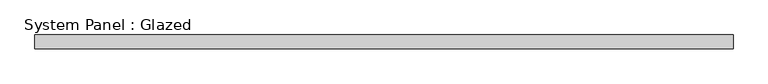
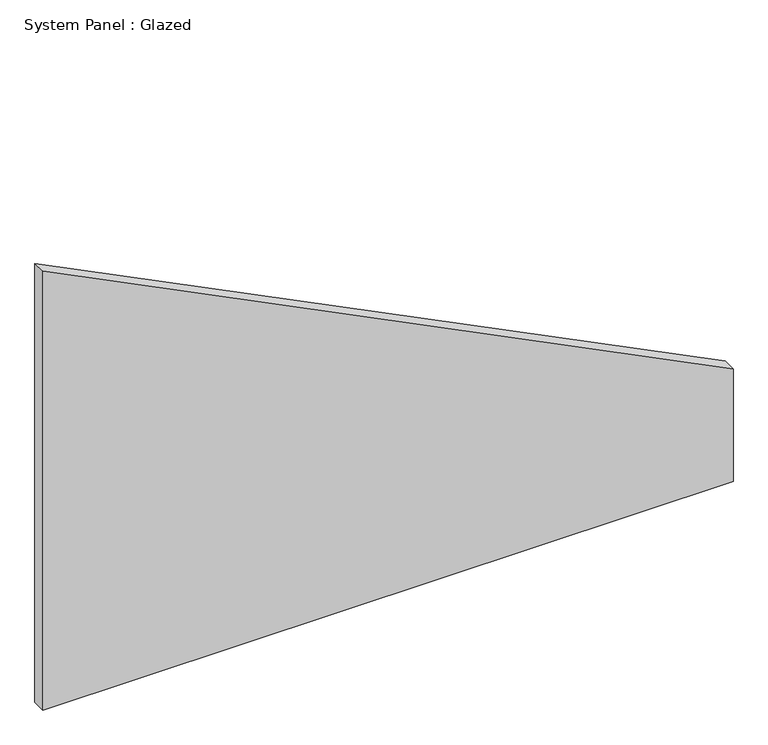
"""IFC4 building model written with IfcOpenShell, lengths in millimetres: plate geometry, System Panel : Glazed."""

from ifc_helpers import new_model, si_unit, frame, origin, place, context, project, spatial, polyline, outline, extrude, source, transform, mapped, element, save


def system_panel_glazed_87e5606a(model_context):
    return source(origin(), model_context, "Body", "SweptSolid", [
        extrude(outline(polyline([(0.0, -641.35), (0.0, 641.35), (221.4960429, 641.35), (862.8460429, -641.35), (0.0, -641.35)])), frame((0.0, 19.05, 0.0), z_axis=(0.0, 1.0, 0.0), x_axis=(0.0, 0.0, 1.0)), (0.0, 0.0, 1.0), 25.4),
    ])


if __name__ == "__main__":
    model = new_model("IFC4")
    model_context = context("Model", 3, world=origin())
    ifc_project = project(units=[si_unit("LENGTHUNIT", "METRE", prefix="MILLI")], contexts=[model_context])
    site = spatial("IfcSite", under=ifc_project)
    building = spatial("IfcBuilding", under=site)
    placement = place(None, origin())
    system_panel_glazed_shape = system_panel_glazed_87e5606a(model_context)
    element("IfcPlate", 1, ObjectType="System Panel : Glazed", at=placement, inside=building, context=model_context, shape_type="MappedRepresentation", body=[
        mapped(system_panel_glazed_shape, transform((0.0, 0.0, 0.0), x_axis=(1.0, 0.0, 0.0), y_axis=(0.0, 1.0, 0.0), z_axis=(0.0, 0.0, 1.0))),
    ])
    save(model, "model.ifc")
